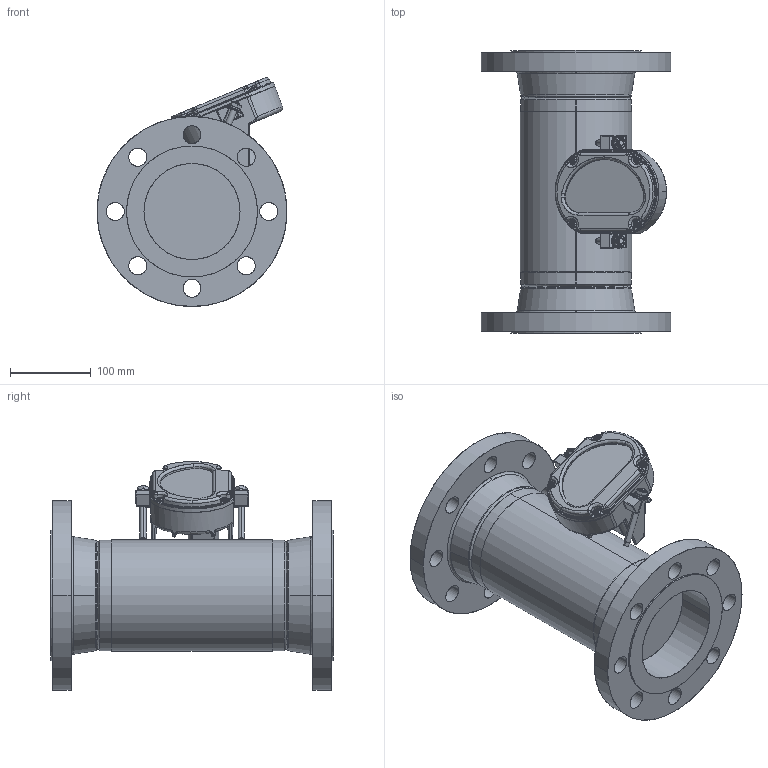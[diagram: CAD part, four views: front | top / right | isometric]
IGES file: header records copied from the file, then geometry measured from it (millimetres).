
Start section: SolidWorks IGES file using analytic representation for surfaces
Global section: file name: G:\Engineering\CAD MODELS FOR SALES\CAD MODEL STORAGE\38XXG\CUSTOMER FILES\Assembly\3809G-A-16-J-2-A-0\3809G-A-16-J-2-A-0.IGS; native system: SolidWorks 2020; preprocessor: SolidWorks 2020; author: CRaksin; date: 220713.152020; units: inch
Bounding box: 235 x 350 x 283.25 mm (x, y, z)
Surface area: 679098.6 mm2 (no closed solid volume)
Topology: 0 solids, 0 shells, 1530 faces, 26232 edges, 26160 vertices
Faces by surface type: revolution 804, bspline 726
